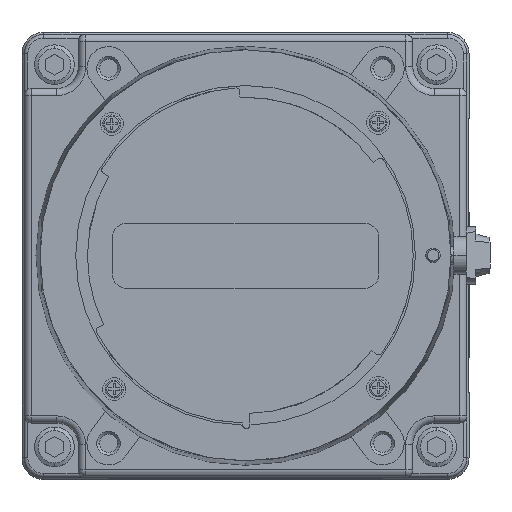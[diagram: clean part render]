
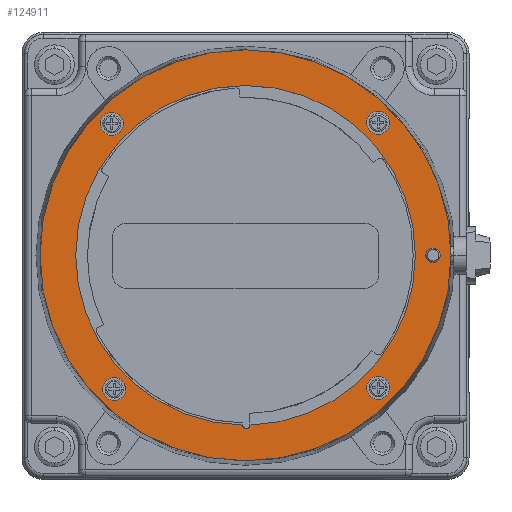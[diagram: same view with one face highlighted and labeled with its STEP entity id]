
A CAD part, top view. The second image highlights one B-rep face of the part: STEP entity #124911.
In plain terms, the highlighted planar face has unit normal (0, 0, 1).
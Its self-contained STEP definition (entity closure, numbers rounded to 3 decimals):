
#44912=CARTESIAN_POINT('',(-55.612,199.,122.401));
#44913=DIRECTION('',(0.,0.,-1.));
#44914=DIRECTION('',(0.,-1.,0.));
#44915=AXIS2_PLACEMENT_3D('',#44912,#44913,#44914);
#44917=CARTESIAN_POINT('',(-55.612,199.,122.401));
#44918=DIRECTION('',(0.,0.,-1.));
#44919=DIRECTION('',(0.,1.,0.));
#44920=AXIS2_PLACEMENT_3D('',#44917,#44918,#44919);
#44922=CARTESIAN_POINT('',(-29.612,199.,122.401));
#44923=DIRECTION('',(0.,0.,1.));
#44924=DIRECTION('',(1.,0.,0.));
#44925=AXIS2_PLACEMENT_3D('',#44922,#44923,#44924);
#44927=CARTESIAN_POINT('',(-29.612,199.,122.401));
#44928=DIRECTION('',(0.,0.,1.));
#44929=DIRECTION('',(-1.,0.,0.));
#44930=AXIS2_PLACEMENT_3D('',#44927,#44928,#44929);
#44932=CARTESIAN_POINT('',(-37.228,217.385,122.401));
#44933=DIRECTION('',(0.,0.,1.));
#44934=DIRECTION('',(1.,0.,0.));
#44935=AXIS2_PLACEMENT_3D('',#44932,#44933,#44934);
#44937=CARTESIAN_POINT('',(-37.228,217.385,122.401));
#44938=DIRECTION('',(0.,0.,1.));
#44939=DIRECTION('',(-1.,0.,0.));
#44940=AXIS2_PLACEMENT_3D('',#44937,#44938,#44939);
#44942=CARTESIAN_POINT('',(-74.157,217.224,122.401));
#44943=DIRECTION('',(0.,0.,1.));
#44944=DIRECTION('',(-0.009,1.,0.));
#44945=AXIS2_PLACEMENT_3D('',#44942,#44943,#44944);
#44947=CARTESIAN_POINT('',(-74.157,217.224,122.401));
#44948=DIRECTION('',(0.,0.,1.));
#44949=DIRECTION('',(0.009,-1.,0.));
#44950=AXIS2_PLACEMENT_3D('',#44947,#44948,#44949);
#44952=CARTESIAN_POINT('',(-73.836,180.455,122.401));
#44953=DIRECTION('',(0.,0.,1.));
#44954=DIRECTION('',(-1.,-0.009,0.));
#44955=AXIS2_PLACEMENT_3D('',#44952,#44953,#44954);
#44957=CARTESIAN_POINT('',(-73.836,180.455,122.401));
#44958=DIRECTION('',(0.,0.,1.));
#44959=DIRECTION('',(1.,0.009,0.));
#44960=AXIS2_PLACEMENT_3D('',#44957,#44958,#44959);
#44962=CARTESIAN_POINT('',(-37.228,180.615,122.401));
#44963=DIRECTION('',(0.,0.,1.));
#44964=DIRECTION('',(0.,-1.,0.));
#44965=AXIS2_PLACEMENT_3D('',#44962,#44963,#44964);
#44967=CARTESIAN_POINT('',(-37.228,180.615,122.401));
#44968=DIRECTION('',(0.,0.,1.));
#44969=DIRECTION('',(0.,1.,0.));
#44970=AXIS2_PLACEMENT_3D('',#44967,#44968,#44969);
#44972=CARTESIAN_POINT('',(-55.612,199.,122.401));
#44973=DIRECTION('',(0.,0.,1.));
#44974=DIRECTION('',(-1.,0.,0.));
#44975=AXIS2_PLACEMENT_3D('',#44972,#44973,#44974);
#44977=CARTESIAN_POINT('',(-55.496,175.45,122.401));
#44978=DIRECTION('',(0.,0.,1.));
#44979=DIRECTION('',(-1.,0.006,0.));
#44980=AXIS2_PLACEMENT_3D('',#44977,#44978,#44979);
#44982=CARTESIAN_POINT('',(-55.612,199.,122.401));
#44983=DIRECTION('',(0.,0.,1.));
#44984=DIRECTION('',(0.026,-1.,0.));
#44985=AXIS2_PLACEMENT_3D('',#44982,#44983,#44984);
#44987=CARTESIAN_POINT('',(-55.612,199.,122.401));
#44988=DIRECTION('',(0.,0.,1.));
#44989=DIRECTION('',(1.,0.,0.));
#44990=AXIS2_PLACEMENT_3D('',#44987,#44988,#44989);
#63609=CARTESIAN_POINT('',(-55.612,227.5,122.401));
#63610=VERTEX_POINT('',#63609);
#63611=CARTESIAN_POINT('',(-55.612,170.5,122.401));
#63612=VERTEX_POINT('',#63611);
#63613=CARTESIAN_POINT('',(-28.612,199.,122.401));
#63614=CARTESIAN_POINT('',(-30.612,199.,122.401));
#63615=VERTEX_POINT('',#63613);
#63616=VERTEX_POINT('',#63614);
#63617=CARTESIAN_POINT('',(-35.628,217.385,122.401));
#63618=CARTESIAN_POINT('',(-38.828,217.385,122.401));
#63619=VERTEX_POINT('',#63617);
#63620=VERTEX_POINT('',#63618);
#63621=CARTESIAN_POINT('',(-74.171,218.824,122.401));
#63622=CARTESIAN_POINT('',(-74.143,215.624,122.401));
#63623=VERTEX_POINT('',#63621);
#63624=VERTEX_POINT('',#63622);
#63625=CARTESIAN_POINT('',(-75.436,180.442,122.401));
#63626=CARTESIAN_POINT('',(-72.236,180.469,122.401));
#63627=VERTEX_POINT('',#63625);
#63628=VERTEX_POINT('',#63626);
#63629=CARTESIAN_POINT('',(-37.228,179.015,122.401));
#63630=CARTESIAN_POINT('',(-37.228,182.215,122.401));
#63631=VERTEX_POINT('',#63629);
#63632=VERTEX_POINT('',#63630);
#63633=CARTESIAN_POINT('',(-79.162,199.,122.401));
#63634=CARTESIAN_POINT('',(-55.996,175.453,122.401));
#63635=VERTEX_POINT('',#63633);
#63636=VERTEX_POINT('',#63634);
#63637=CARTESIAN_POINT('',(-54.996,175.458,122.401));
#63638=VERTEX_POINT('',#63637);
#63639=CARTESIAN_POINT('',(-32.062,199.,122.401));
#63640=VERTEX_POINT('',#63639);
#124862=CARTESIAN_POINT('',(-55.612,199.,122.401));
#124863=DIRECTION('',(0.,0.,1.));
#124864=DIRECTION('',(1.,0.,0.));
#124865=AXIS2_PLACEMENT_3D('',#124862,#124863,#124864);
#124866=PLANE('',#124865);
#124867=ORIENTED_EDGE('',*,*,#124842,.T.);
#124868=ORIENTED_EDGE('',*,*,#124857,.T.);
#124869=EDGE_LOOP('',(#124867,#124868));
#124870=FACE_OUTER_BOUND('',#124869,.F.);
#124872=ORIENTED_EDGE('',*,*,#124871,.T.);
#124874=ORIENTED_EDGE('',*,*,#124873,.T.);
#124875=EDGE_LOOP('',(#124872,#124874));
#124876=FACE_BOUND('',#124875,.F.);
#124878=ORIENTED_EDGE('',*,*,#124877,.T.);
#124880=ORIENTED_EDGE('',*,*,#124879,.T.);
#124881=EDGE_LOOP('',(#124878,#124880));
#124882=FACE_BOUND('',#124881,.F.);
#124884=ORIENTED_EDGE('',*,*,#124883,.T.);
#124886=ORIENTED_EDGE('',*,*,#124885,.T.);
#124887=EDGE_LOOP('',(#124884,#124886));
#124888=FACE_BOUND('',#124887,.F.);
#124890=ORIENTED_EDGE('',*,*,#124889,.T.);
#124892=ORIENTED_EDGE('',*,*,#124891,.T.);
#124893=EDGE_LOOP('',(#124890,#124892));
#124894=FACE_BOUND('',#124893,.F.);
#124896=ORIENTED_EDGE('',*,*,#124895,.T.);
#124898=ORIENTED_EDGE('',*,*,#124897,.T.);
#124899=EDGE_LOOP('',(#124896,#124898));
#124900=FACE_BOUND('',#124899,.F.);
#124902=ORIENTED_EDGE('',*,*,#124901,.T.);
#124904=ORIENTED_EDGE('',*,*,#124903,.T.);
#124906=ORIENTED_EDGE('',*,*,#124905,.T.);
#124908=ORIENTED_EDGE('',*,*,#124907,.T.);
#124909=EDGE_LOOP('',(#124902,#124904,#124906,#124908));
#124910=FACE_BOUND('',#124909,.F.);
#124911=ADVANCED_FACE('',(#124870,#124876,#124882,#124888,#124894,#124900,
#124910),#124866,.T.);
#44916=CIRCLE('',#44915,28.5);
#44921=CIRCLE('',#44920,28.5);
#44926=CIRCLE('',#44925,1.);
#44931=CIRCLE('',#44930,1.);
#44936=CIRCLE('',#44935,1.6);
#44941=CIRCLE('',#44940,1.6);
#44946=CIRCLE('',#44945,1.6);
#44951=CIRCLE('',#44950,1.6);
#44956=CIRCLE('',#44955,1.6);
#44961=CIRCLE('',#44960,1.6);
#44966=CIRCLE('',#44965,1.6);
#44971=CIRCLE('',#44970,1.6);
#44976=CIRCLE('',#44975,23.55);
#44981=CIRCLE('',#44980,0.5);
#44986=CIRCLE('',#44985,23.55);
#44991=CIRCLE('',#44990,23.55);
#124842=EDGE_CURVE('',#63612,#63610,#44916,.T.);
#124857=EDGE_CURVE('',#63610,#63612,#44921,.T.);
#124871=EDGE_CURVE('',#63615,#63616,#44926,.T.);
#124873=EDGE_CURVE('',#63616,#63615,#44931,.T.);
#124877=EDGE_CURVE('',#63619,#63620,#44936,.T.);
#124879=EDGE_CURVE('',#63620,#63619,#44941,.T.);
#124883=EDGE_CURVE('',#63623,#63624,#44946,.T.);
#124885=EDGE_CURVE('',#63624,#63623,#44951,.T.);
#124889=EDGE_CURVE('',#63627,#63628,#44956,.T.);
#124891=EDGE_CURVE('',#63628,#63627,#44961,.T.);
#124895=EDGE_CURVE('',#63631,#63632,#44966,.T.);
#124897=EDGE_CURVE('',#63632,#63631,#44971,.T.);
#124901=EDGE_CURVE('',#63635,#63636,#44976,.T.);
#124903=EDGE_CURVE('',#63636,#63638,#44981,.T.);
#124905=EDGE_CURVE('',#63638,#63640,#44986,.T.);
#124907=EDGE_CURVE('',#63640,#63635,#44991,.T.);
